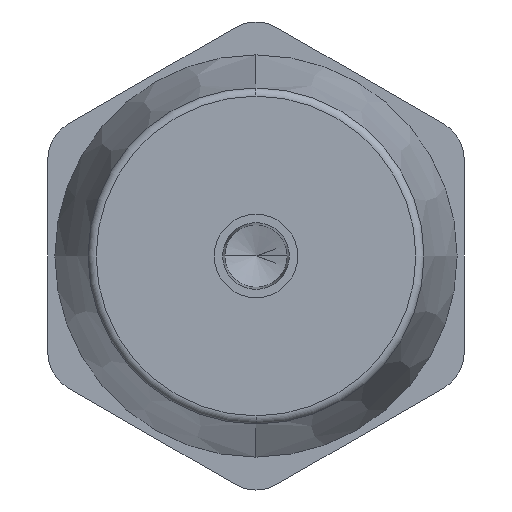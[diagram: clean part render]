
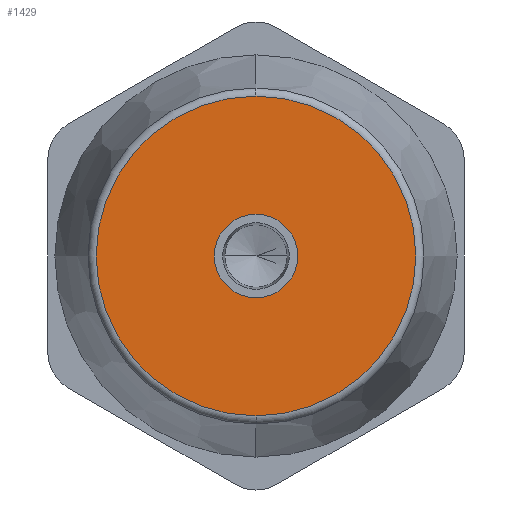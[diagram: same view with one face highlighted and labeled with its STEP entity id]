
A CAD part, front view. The second image highlights one B-rep face of the part: STEP entity #1429.
In plain terms, the highlighted planar face has unit normal (0, -1, 0).
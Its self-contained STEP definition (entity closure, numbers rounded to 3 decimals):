
#13 = DIRECTION ( 'NONE',  ( 0., 1., 0. ) ) ;
#115 = CARTESIAN_POINT ( 'NONE',  ( 0., 0., 19.19 ) ) ;
#194 = EDGE_CURVE ( 'NONE', #2013, #1149, #2598, .T. ) ;
#288 = DIRECTION ( 'NONE',  ( 0., 0., 1. ) ) ;
#311 = ORIENTED_EDGE ( 'NONE', *, *, #194, .T. ) ;
#412 = CARTESIAN_POINT ( 'NONE',  ( 0., 0., 0. ) ) ;
#452 = CARTESIAN_POINT ( 'NONE',  ( 0., 0., -19.19 ) ) ;
#531 = CIRCLE ( 'NONE', #2534, 19.19 ) ;
#578 = EDGE_CURVE ( 'NONE', #1149, #2013, #1885, .T. ) ;
#639 = ORIENTED_EDGE ( 'NONE', *, *, #2084, .T. ) ;
#762 = CARTESIAN_POINT ( 'NONE',  ( -5., 0., 0. ) ) ;
#764 = CARTESIAN_POINT ( 'NONE',  ( 0., 0., 0. ) ) ;
#767 = VERTEX_POINT ( 'NONE', #115 ) ;
#824 = FACE_OUTER_BOUND ( 'NONE', #2651, .T. ) ;
#878 = DIRECTION ( 'NONE',  ( 0., 0., 1. ) ) ;
#1018 = VERTEX_POINT ( 'NONE', #452 ) ;
#1058 = AXIS2_PLACEMENT_3D ( 'NONE', #1974, #2666, #288 ) ;
#1149 = VERTEX_POINT ( 'NONE', #1487 ) ;
#1181 = AXIS2_PLACEMENT_3D ( 'NONE', #412, #13, #1892 ) ;
#1203 = ORIENTED_EDGE ( 'NONE', *, *, #1726, .T. ) ;
#1429 = ADVANCED_FACE ( 'NONE', ( #2733, #824 ), #1837, .F. ) ;
#1460 = DIRECTION ( 'NONE',  ( 0., 0., 1. ) ) ;
#1487 = CARTESIAN_POINT ( 'NONE',  ( 5., 0., 0. ) ) ;
#1635 = DIRECTION ( 'NONE',  ( 0., 1., 0. ) ) ;
#1726 = EDGE_CURVE ( 'NONE', #1018, #767, #531, .T. ) ;
#1837 = PLANE ( 'NONE',  #2368 ) ;
#1859 = AXIS2_PLACEMENT_3D ( 'NONE', #764, #2683, #2859 ) ;
#1885 = CIRCLE ( 'NONE', #1181, 5. ) ;
#1892 = DIRECTION ( 'NONE',  ( -1., 0., 0. ) ) ;
#1974 = CARTESIAN_POINT ( 'NONE',  ( 0., 0., 0. ) ) ;
#2013 = VERTEX_POINT ( 'NONE', #762 ) ;
#2084 = EDGE_CURVE ( 'NONE', #767, #1018, #2410, .T. ) ;
#2175 = DIRECTION ( 'NONE',  ( 0., -1., 0. ) ) ;
#2368 = AXIS2_PLACEMENT_3D ( 'NONE', #2563, #1635, #878 ) ;
#2410 = CIRCLE ( 'NONE', #1058, 19.19 ) ;
#2454 = CARTESIAN_POINT ( 'NONE',  ( 0., 0., 0. ) ) ;
#2534 = AXIS2_PLACEMENT_3D ( 'NONE', #2454, #2175, #1460 ) ;
#2563 = CARTESIAN_POINT ( 'NONE',  ( 25., 0., -14.434 ) ) ;
#2598 = CIRCLE ( 'NONE', #1859, 5. ) ;
#2651 = EDGE_LOOP ( 'NONE', ( #639, #1203 ) ) ;
#2666 = DIRECTION ( 'NONE',  ( 0., -1., 0. ) ) ;
#2683 = DIRECTION ( 'NONE',  ( 0., 1., 0. ) ) ;
#2733 = FACE_BOUND ( 'NONE', #2905, .T. ) ;
#2762 = ORIENTED_EDGE ( 'NONE', *, *, #578, .T. ) ;
#2859 = DIRECTION ( 'NONE',  ( -1., 0., 0. ) ) ;
#2905 = EDGE_LOOP ( 'NONE', ( #311, #2762 ) ) ;
